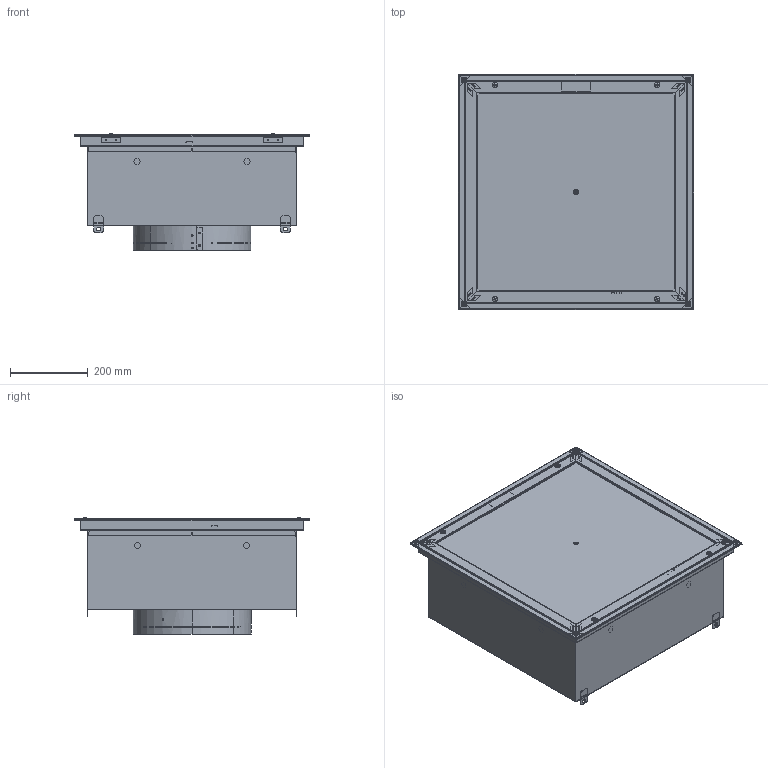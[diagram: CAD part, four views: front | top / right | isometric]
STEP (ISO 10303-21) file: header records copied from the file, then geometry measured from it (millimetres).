
FILE_DESCRIPTION (( 'STEP AP214' ), '1' );
FILE_NAME ('24 X 24_SSLFHFD_NO LED.STEP', '2025-07-25T16:13:29', ( '' ), ( '' ), 'SwSTEP 2.0', 'SolidWorks 2024', '' );
FILE_SCHEMA (( 'AUTOMOTIVE_DESIGN' ));
Length unit declared in the file: inch
Products named in the file (52): 060525-HFDs_H1F1_L06_1_4 TURN SPRING; 060525-HFDs_H2E1_L06_WELD CLIP; 40º BEVEL FRAME; 060525-HFDs_H1L1_L06; 060525-HFDs_H2E12_L06_CLIP, HEPA FILTER, SWING ARM; 060525-HFDs_H1B8_L06; 060525-HFDs_C1C1C112_L06; 060525-HFDs_PLASTER SUB_L06; 060525-HFDs_H1E1_L06; 060525-HFDs_FP1B_L06; 060525-HFDs_R2B124X24P_L06; 060525-HFDs_FC3E-A1_L06; 060525-HFDs_BM5D_L06; 060525-HFDs_SSRD_L06; 060525-HFDs_H2G12_L06; 060525-HFDs_H2E2_L06_WELD CLIP, BOB FRAME; 24 X 24_SSLFHFD_NO LED; 060525-HFDs_H1P11_L06; 060525-HFDs_H1T2_L06; 060525-HFDs_FC3E-A4_L06; 060525-HFDs_H1T7_L06_9531K23; 060525-HFDs_H1Z26_L06_LABEL; "CONCENTRATION"; 060525-HFDs_FP1B20-A4_L06; 060525-HFDs_H2E11_L06_GUIDE, HEPA FILTER, SWING ARM; 060525-HFDs_SM3X4_L06; 060525-HFDs_H1N2_L06; 060525-HFDs_H1T3_L06_GROMMET, BLADE; 060525-HFDs_FP1B20-A1_L06; 060525-HFDs_H2E5_L06; 060525-HFDs_PORT-SUB_L06; 060525-HFDs_R2B1 SUB_L06; 060525-HFDs_H1Z25_L06_LABEL; "CHALLENGE."; 060525-HFDs_FC3E-A2_L06; 060525-HFDs_H1E2_L06; 060525-HFDs_P1B1B SUB_L06; 060525-HFDs_P1B1B_L06; 060525-HFDs_H1E3_L06; 060525-HFDs_FP1B20-A2_L06; 060525-HFDs_H1V31_L06_WASHER, TEFLON: 0.50"OD x 0.25"ID x 0.025"th; 060525-HFDs_SAFETYCABLEASSEMBLY_L06; 060525-HFDs_K2A2_L06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
Assembly tree (90 placements, depth 5):
  24 X 24_SSLFHFD_NO LED
    060525-HFDs_PLASTER SUB_L06
      060525-HFDs_FC3E_L06
        060525-HFDs_FC3E-A1_L06
        060525-HFDs_FC3E-A2_L06
        060525-HFDs_FC3E-A3_L06
        060525-HFDs_FC3E-A4_L06
        060525-HFDs_H2E2_L06_WELD CLIP, BOB FRAME  x4
        060525-HFDs_H2G12_L06  x4
        060525-HFDs_H1F1_L06_1_4 TURN SPRING  x4
        060525-HFDs_H2E11_L06_GUIDE, HEPA FILTER, SWING ARM  x4
        060525-HFDs_H2E12_L06_CLIP, HEPA FILTER, SWING ARM  x4
        060525-HFDs_H1V31_L06_WASHER, TEFLON: 0.50"OD x 0.25"ID x 0.025"th  x4
        060525-HFDs_H1Z25_L06_LABEL; "CHALLENGE."
        060525-HFDs_H1Z26_L06_LABEL; "CONCENTRATION"
      060525-HFDs_PORT-SUB_L06  x2
        060525-HFDs_H1P11_L06
        060525-HFDs_H1T7_L06_9531K23
    060525-HFDs_FACE SUB_L06
      060525-HFDs_FP1B_L06
        060525-HFDs_FP1B20-A1_L06
        060525-HFDs_FP1B20-A2_L06
        060525-HFDs_FP1B20-A3_L06
        060525-HFDs_FP1B20-A4_L06
        060525-HFDs_H2E1_L06_WELD CLIP; 40º BEVEL FRAME  x4
        060525-HFDs_H1E1_L06  x4
        060525-HFDs_H1E2_L06  x4
        060525-HFDs_SAFETYCABLEASSEMBLY_L06  x2
          060525-HFDs_H1N2_L06
          060525-HFDs_H1E3_L06
        060525-HFDs_H1Z24_L06
    060525-HFDs_PERF SUB_L06
      060525-HFDs_H1T2_L06
      060525-HFDs_R2B1 SUB_L06
        060525-HFDs_R2B124X24P_L06
    060525-HFDs_PLENUM MASTER_L06
      060525-HFDs_P1B1B SUB_L06
        060525-HFDs_P1B1B_L06
        060525-HFDs_H2E5_L06  x4
    060525-HFDs_C1C1C112_L06
    060525-HFDs_SSRD_L06
      060525-HFDs_H1L1_L06  x4
      060525-HFDs_BM5D_L06  x2
      060525-HFDs_SM2X3_L06
      060525-HFDs_SM3X4_L06
      060525-HFDs_H1A2_L06
      060525-HFDs_H1B4_L06
      060525-HFDs_H1V7_L06_WASHER, TEFLON: 0.50"OD x 0.25"ID x 0.025"th  x2
      060525-HFDs_K2A2_L06  x2
      060525-HFDs_H1T3_L06_GROMMET, BLADE  x2
      060525-HFDs_K2A1_L06
      060525-HFDs_H1B8_L06
Bounding box: 603.25 x 603.25 x 299.81 mm (x, y, z)
Volume: 1277341.8 mm3; surface area: 3026965.8 mm2
Topology: 97 solids, 97 shells, 3108 faces, 7622 edges, 4801 vertices
Faces by surface type: plane 1445, cylinder 1140, torus 248, bspline 209, cone 44, sphere 22
Entity records: 65064 total; most frequent: CARTESIAN_POINT 20164, ORIENTED_EDGE 8978, DIRECTION 8793, EDGE_CURVE 4489, AXIS2_PLACEMENT_3D 3173, VERTEX_POINT 2809, VECTOR 2447, LINE 2447
